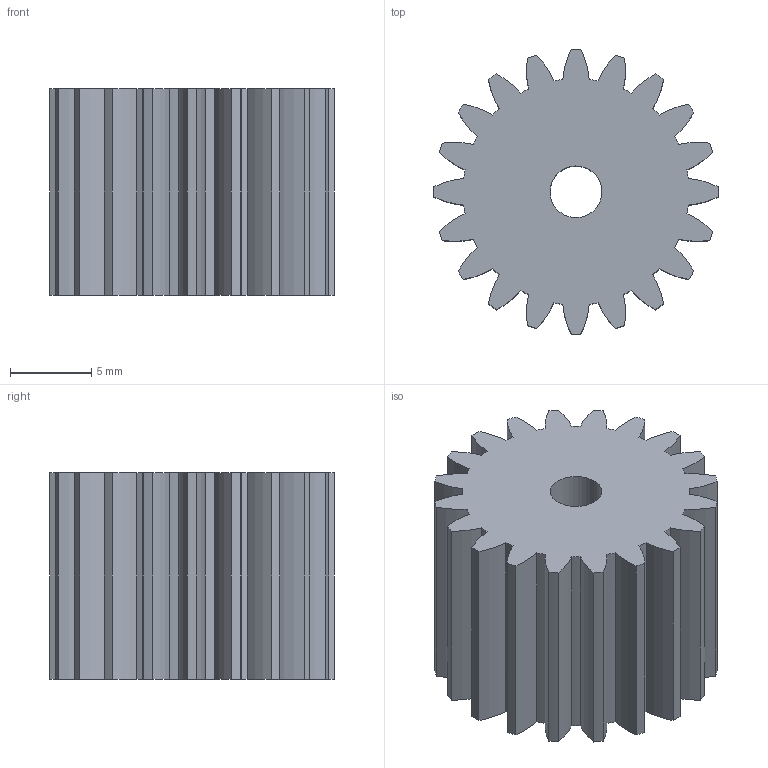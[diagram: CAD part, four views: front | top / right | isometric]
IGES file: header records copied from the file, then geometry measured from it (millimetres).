
Global section: file name: C:\Documents and Settings\Administrator\Desktop\Transfer Temp\fppinion.igs; native system: AutoDesk Inventor R2.0 ; preprocessor: AutoDesk Inventor Iges Exporter R2.0; author: No Author specified; organization: No Organization specified; date: 20011229.170342; units: inch
Bounding box: 17.46 x 17.46 x 12.7 mm (x, y, z)
Surface area: 1766.3 mm2 (no closed solid volume)
Topology: 0 solids, 0 shells, 84 faces, 492 edges, 492 vertices
Faces by surface type: revolution 80, bspline 4
